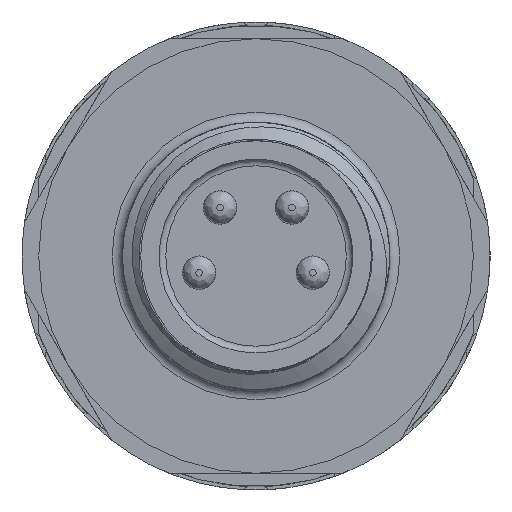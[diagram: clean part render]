
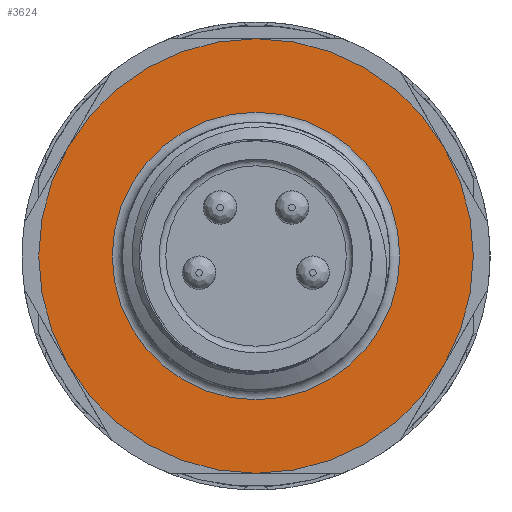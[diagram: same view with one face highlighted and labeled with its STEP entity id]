
A CAD part, left-side view. The second image highlights one B-rep face of the part: STEP entity #3624.
In plain terms, the highlighted planar face has unit normal (-1, 0, 0).
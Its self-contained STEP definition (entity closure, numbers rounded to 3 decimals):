
#53=PLANE('',#3905);
#212=FACE_BOUND('',#533,.T.);
#313=FACE_OUTER_BOUND('',#532,.T.);
#532=EDGE_LOOP('',(#2570));
#533=EDGE_LOOP('',(#2571));
#745=CIRCLE('',#3877,6.5);
#754=CIRCLE('',#3906,4.3);
#1555=VERTEX_POINT('',#5589);
#1572=VERTEX_POINT('',#5952);
#1916=EDGE_CURVE('',#1555,#1555,#745,.T.);
#1951=EDGE_CURVE('',#1572,#1572,#754,.T.);
#2570=ORIENTED_EDGE('',*,*,#1916,.F.);
#2571=ORIENTED_EDGE('',*,*,#1951,.F.);
#3624=ADVANCED_FACE('',(#313,#212),#53,.T.);
#3877=AXIS2_PLACEMENT_3D('',#5590,#4315,#4316);
#3905=AXIS2_PLACEMENT_3D('',#5951,#4395,#4396);
#3906=AXIS2_PLACEMENT_3D('',#5953,#4397,#4398);
#4315=DIRECTION('center_axis',(1.,0.,0.));
#4316=DIRECTION('ref_axis',(0.,0.,1.));
#4395=DIRECTION('center_axis',(-1.,0.,0.));
#4396=DIRECTION('ref_axis',(0.,1.,0.));
#4397=DIRECTION('center_axis',(-1.,0.,0.));
#4398=DIRECTION('ref_axis',(0.,0.,-1.));
#5589=CARTESIAN_POINT('',(-9.,5.629,-3.25));
#5590=CARTESIAN_POINT('Origin',(-9.,0.,0.));
#5951=CARTESIAN_POINT('Origin',(-9.,0.,5.25));
#5952=CARTESIAN_POINT('',(-9.,0.,4.3));
#5953=CARTESIAN_POINT('Origin',(-9.,0.,0.));
